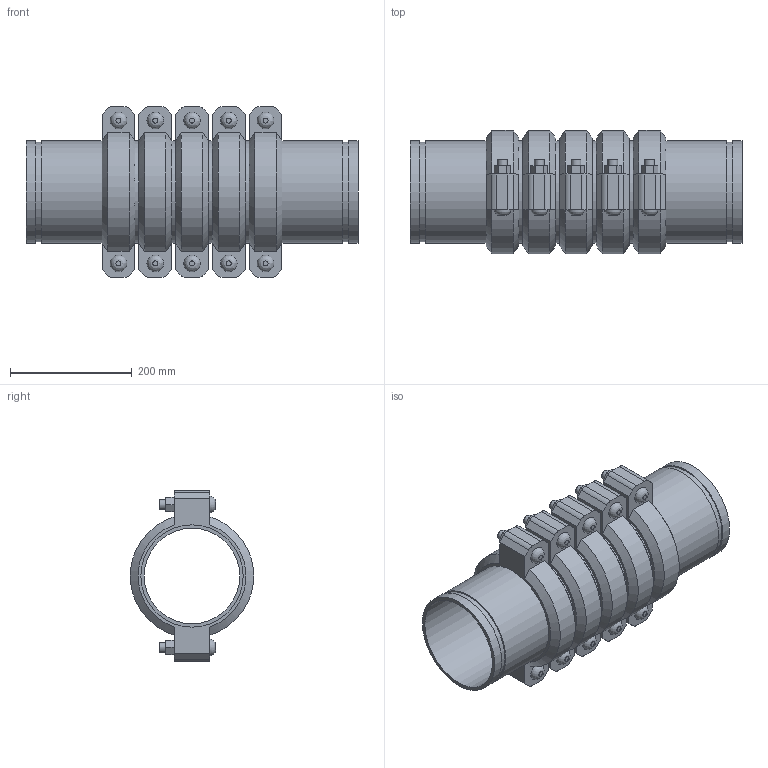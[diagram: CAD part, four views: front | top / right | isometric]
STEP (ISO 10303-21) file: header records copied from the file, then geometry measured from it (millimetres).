
FILE_DESCRIPTION(/* description */ ('VIC SS EXPANSION JOINT 5 COUPLINGS COMPRESSED STYLE 155P (OGS) (POTABLE WATER) ','CAx-IF Rec.Pracs.---Representation and Presentation of Product Manufacturing Information (PMI)---4.0---2014-10-13'),/* implementation_level */ '2;1');
FILE_NAME(/* name */ 'C:\Users\kkamble\AppData\Roaming\Autodesk\ApplicationPlugins\Victaulic.Temp\A410\Victaulic_SS_Expansion Joint_Compressed_5 Couplings_Style 155P (OGS)-Potable Water_5 Coup_Comp_6 (150).stp',/* time_stamp */ '2021-07-16T17:13:30+06:00',/* author */ ('kkamble'),/* organization */ ('Victaulic'),/* preprocessor_version */ 'ST-DEVELOPER v17.2',/* originating_system */ 'Autodesk Inventor 2019',/* authorisation */ '');
FILE_SCHEMA (('AP242_MANAGED_MODEL_BASED_3D_ENGINEERING_MIM_LF { 1 0 10303 442 1 1 4 }'));
Length unit declared in the file: inch
Products named in the file (4): 155P-06.0; Nipple-06.0; Nipple-06.0_1; 075-06.0
Assembly tree (11 placements, depth 2):
  155P-06.0
    Nipple-06.0  x2
    Nipple-06.0_1  x4
    075-06.0  x5
Bounding box: 545.85 x 202.46 x 281.18 mm (x, y, z)
Volume: 5171343.5 mm3; surface area: 1167491 mm2
Topology: 11 solids, 21 shells, 337 faces, 815 edges, 574 vertices
Faces by surface type: plane 206, cylinder 101, cone 20, bspline 10
Full cylindrical faces by diameter (mm): 15.875 x20, 17.424 x10, 157.15 x6, 163.957 x12, 168.275 x23
Entity records: 2689 total; most frequent: CARTESIAN_POINT 481, DIRECTION 447, ORIENTED_EDGE 374, EDGE_CURVE 187, AXIS2_PLACEMENT_3D 178, VERTEX_POINT 134, EDGE_LOOP 101, LINE 91
